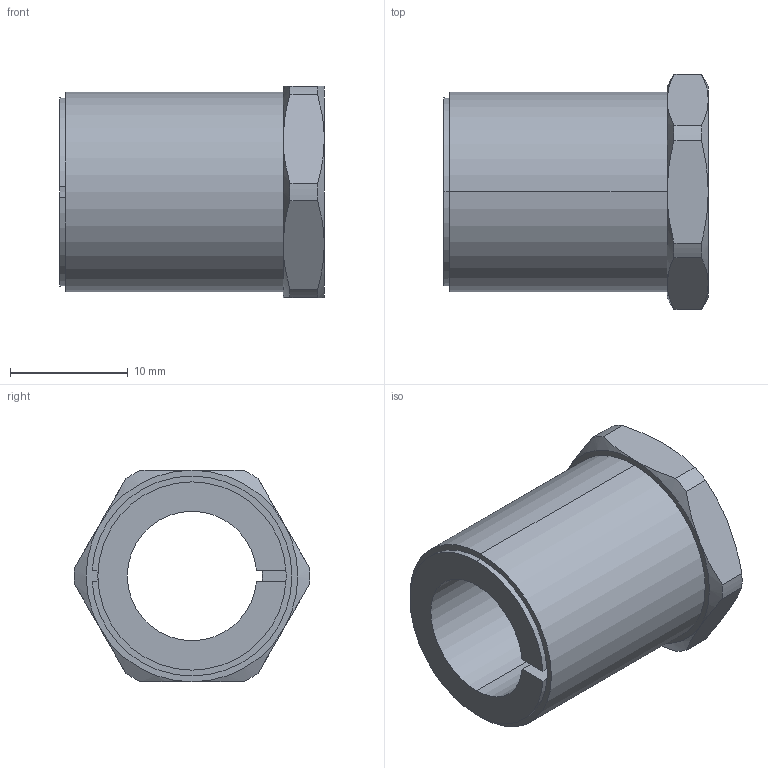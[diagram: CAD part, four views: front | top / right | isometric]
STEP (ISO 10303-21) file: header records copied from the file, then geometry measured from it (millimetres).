
FILE_DESCRIPTION (( 'STEP AP203' ), '1' );
FILE_NAME ('KBS 57 - 11 x 17.STEP', '2015-07-05T18:32:38', ( '' ), ( '' ), 'SwSTEP 2.0', 'SolidWorks 2010', '' );
FILE_SCHEMA (( 'CONFIG_CONTROL_DESIGN' ));
Length unit declared in the file: millimetre
Products named in the file (1): KBS 57 - 11 x 17
Bounding box: 22.5 x 19.99 x 18 mm (x, y, z)
Volume: 3053.5 mm3; surface area: 2478.5 mm2
Topology: 1 solids, 1 shells, 47 faces, 118 edges, 74 vertices
Faces by surface type: cylinder 16, plane 16, cone 15
Entity records: 1589 total; most frequent: CARTESIAN_POINT 388, DIRECTION 240, ORIENTED_EDGE 236, EDGE_CURVE 118, AXIS2_PLACEMENT_3D 100, VERTEX_POINT 74, CIRCLE 52, EDGE_LOOP 50
